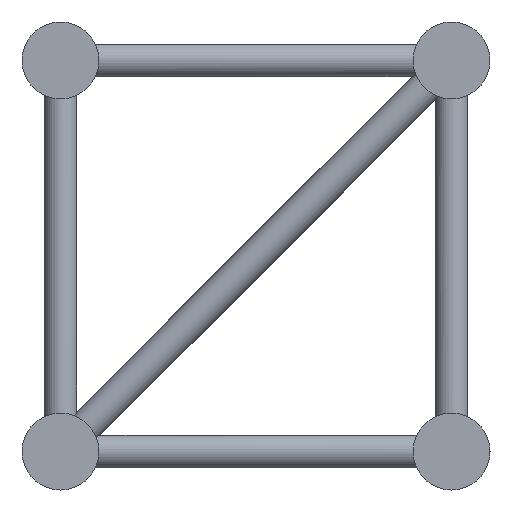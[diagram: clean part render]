
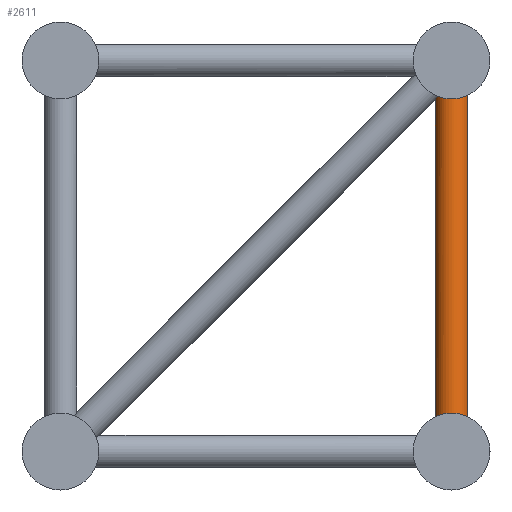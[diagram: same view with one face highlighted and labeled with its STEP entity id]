
A CAD part, left-side view. The second image highlights one B-rep face of the part: STEP entity #2611.
In plain terms, the highlighted cylindrical face has radius 12.5 mm (diameter 25 mm), a full revolution.
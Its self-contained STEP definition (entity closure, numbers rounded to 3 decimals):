
#110=FACE_BOUND('',#701,.T.);
#207=ELLIPSE('',#2889,32.664,12.5);
#446=FACE_OUTER_BOUND('',#700,.T.);
#700=EDGE_LOOP('',(#2052,#2053,#2054,#2055));
#701=EDGE_LOOP('',(#2056,#2057));
#862=CIRCLE('',#2699,12.5);
#863=CIRCLE('',#2702,12.5);
#890=CIRCLE('',#2758,12.5);
#950=CIRCLE('',#2885,12.5);
#951=CIRCLE('',#2887,12.5);
#1106=VERTEX_POINT('',#3748);
#1107=VERTEX_POINT('',#3750);
#1110=VERTEX_POINT('',#3756);
#1111=VERTEX_POINT('',#3758);
#1172=VERTEX_POINT('',#5181);
#1173=VERTEX_POINT('',#5202);
#1331=EDGE_CURVE('',#1106,#1107,#862,.T.);
#1335=EDGE_CURVE('',#1110,#1111,#863,.T.);
#1446=EDGE_CURVE('',#1173,#1172,#890,.T.);
#1551=EDGE_CURVE('',#1172,#1173,#950,.T.);
#1552=EDGE_CURVE('',#1111,#1106,#951,.T.);
#1553=EDGE_CURVE('',#1107,#1110,#207,.T.);
#2052=ORIENTED_EDGE('',*,*,#1553,.F.);
#2053=ORIENTED_EDGE('',*,*,#1331,.F.);
#2054=ORIENTED_EDGE('',*,*,#1552,.F.);
#2055=ORIENTED_EDGE('',*,*,#1335,.F.);
#2056=ORIENTED_EDGE('',*,*,#1551,.F.);
#2057=ORIENTED_EDGE('',*,*,#1446,.F.);
#2312=CYLINDRICAL_SURFACE('',#2888,12.5);
#2611=ADVANCED_FACE('',(#446,#110),#2312,.T.);
#2699=AXIS2_PLACEMENT_3D('',#3751,#3022,#3023);
#2702=AXIS2_PLACEMENT_3D('',#3759,#3029,#3030);
#2758=AXIS2_PLACEMENT_3D('',#5983,#3163,#3164);
#2885=AXIS2_PLACEMENT_3D('',#6874,#3431,#3432);
#2887=AXIS2_PLACEMENT_3D('',#6876,#3435,#3436);
#2888=AXIS2_PLACEMENT_3D('',#6877,#3437,#3438);
#2889=AXIS2_PLACEMENT_3D('',#6878,#3439,#3440);
#3022=DIRECTION('center_axis',(0.,0.,
1.));
#3023=DIRECTION('ref_axis',(-1.,0.,0.));
#3029=DIRECTION('center_axis',(0.,0.,
1.));
#3030=DIRECTION('ref_axis',(-1.,0.,0.));
#3163=DIRECTION('center_axis',(0.,0.,
-1.));
#3164=DIRECTION('ref_axis',(-1.,0.,0.));
#3431=DIRECTION('center_axis',(0.,0.,
-1.));
#3432=DIRECTION('ref_axis',(-1.,0.,0.));
#3435=DIRECTION('center_axis',(0.,0.,
1.));
#3436=DIRECTION('ref_axis',(-1.,0.,0.));
#3437=DIRECTION('center_axis',(0.,0.,1.));
#3438=DIRECTION('ref_axis',(-1.,0.,0.));
#3439=DIRECTION('center_axis',(0.,0.924,
0.383));
#3440=DIRECTION('ref_axis',(0.,-0.383,0.924));
#3748=CARTESIAN_POINT('',(105.,0.,-25.));
#3750=CARTESIAN_POINT('',(99.501,10.355,-25.));
#3751=CARTESIAN_POINT('Origin',(92.5,0.,-25.));
#3756=CARTESIAN_POINT('',(85.499,10.355,-25.));
#3758=CARTESIAN_POINT('',(80.,0.,-25.));
#3759=CARTESIAN_POINT('Origin',(92.5,0.,-25.));
#5181=CARTESIAN_POINT('',(105.,0.,-274.));
#5202=CARTESIAN_POINT('',(80.,0.,-274.));
#5983=CARTESIAN_POINT('Origin',(92.5,0.,-274.));
#6874=CARTESIAN_POINT('Origin',(92.5,0.,-274.));
#6876=CARTESIAN_POINT('Origin',(92.5,0.,-25.));
#6877=CARTESIAN_POINT('Origin',(92.5,0.,-274.));
#6878=CARTESIAN_POINT('Origin',(92.5,0.,0.));
